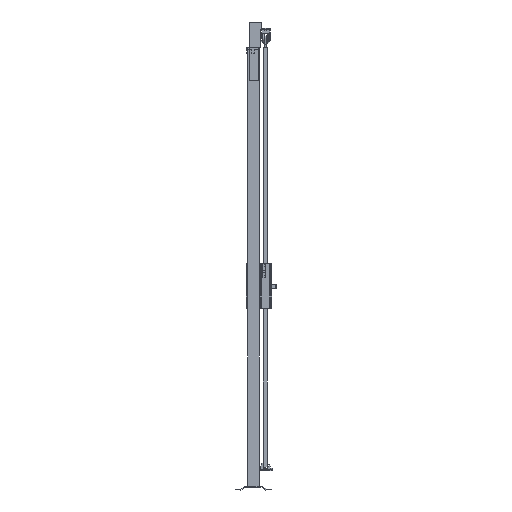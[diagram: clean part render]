
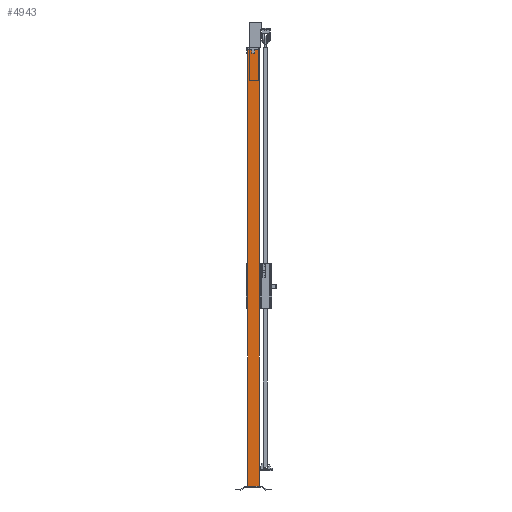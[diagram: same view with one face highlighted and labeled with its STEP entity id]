
A CAD part, left-side view. The second image highlights one B-rep face of the part: STEP entity #4943.
In plain terms, the highlighted planar face has unit normal (-1, 0, 0).
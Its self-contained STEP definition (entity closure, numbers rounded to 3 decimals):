
#594=FACE_OUTER_BOUND('',#941,.T.);
#941=EDGE_LOOP('',(#3211,#3212,#3213,#3214));
#1345=VERTEX_POINT('',#10618);
#1346=VERTEX_POINT('',#10620);
#1349=VERTEX_POINT('',#10627);
#1350=VERTEX_POINT('',#10629);
#2071=EDGE_CURVE('',#1345,#1346,#5844,.T.);
#2075=EDGE_CURVE('',#1349,#1350,#5848,.T.);
#2077=EDGE_CURVE('',#1346,#1349,#5850,.T.);
#2079=EDGE_CURVE('',#1345,#1350,#5852,.T.);
#3211=ORIENTED_EDGE('',*,*,#2079,.T.);
#3212=ORIENTED_EDGE('',*,*,#2075,.F.);
#3213=ORIENTED_EDGE('',*,*,#2077,.F.);
#3214=ORIENTED_EDGE('',*,*,#2071,.F.);
#4633=PLANE('',#7480);
#4943=ADVANCED_FACE('',(#594),#4633,.F.);
#5844=LINE('',#10621,#6744);
#5848=LINE('',#10630,#6748);
#5850=LINE('',#10633,#6750);
#5852=LINE('',#10636,#6752);
#6744=VECTOR('',#8394,1.);
#6748=VECTOR('',#8400,1.);
#6750=VECTOR('',#8404,1.);
#6752=VECTOR('',#8408,1.);
#7480=AXIS2_PLACEMENT_3D('',#10635,#8406,#8407);
#8394=DIRECTION('',(0.,-1.,0.));
#8400=DIRECTION('',(0.,1.,0.));
#8404=DIRECTION('',(0.,0.,-1.));
#8406=DIRECTION('center_axis',(1.,0.,0.));
#8407=DIRECTION('ref_axis',(0.,0.,-1.));
#8408=DIRECTION('',(0.,0.,-1.));
#10618=CARTESIAN_POINT('',(-30.,30.,2320.));
#10620=CARTESIAN_POINT('',(-30.,-30.,2320.));
#10621=CARTESIAN_POINT('',(-30.,0.,2320.));
#10627=CARTESIAN_POINT('',(-30.,-30.,20.));
#10629=CARTESIAN_POINT('',(-30.,30.,20.));
#10630=CARTESIAN_POINT('',(-30.,0.,20.));
#10633=CARTESIAN_POINT('',(-30.,-30.,1170.));
#10635=CARTESIAN_POINT('Origin',(-30.,0.,
1170.));
#10636=CARTESIAN_POINT('',(-30.,30.,1170.));
